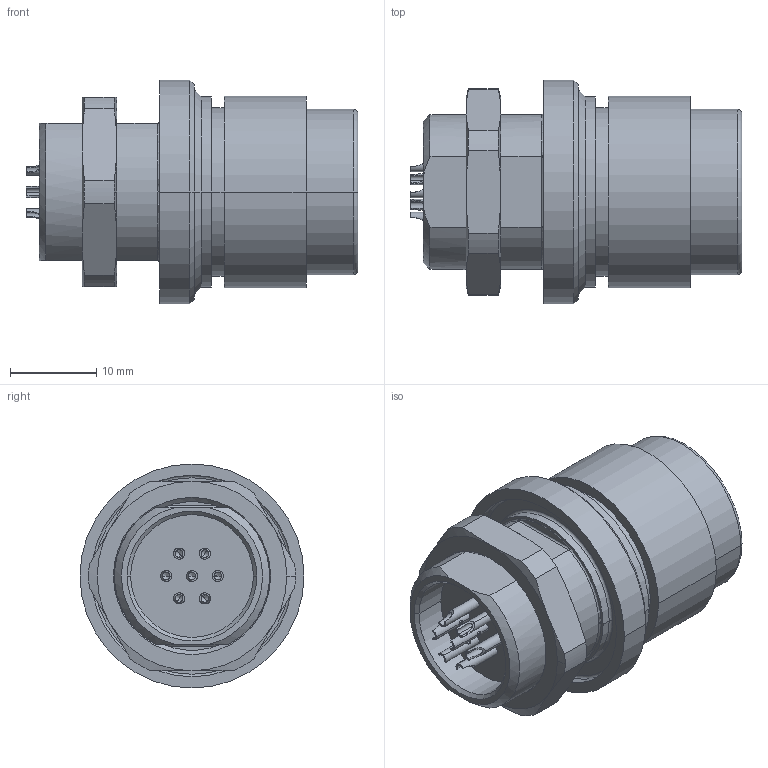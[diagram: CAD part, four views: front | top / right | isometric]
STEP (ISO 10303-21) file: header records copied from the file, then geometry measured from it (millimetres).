
FILE_DESCRIPTION((''),'2;1');
FILE_NAME('542E0030A9_SW0001','2017-04-10T',('Syakoubi'),('SOURIAU'),'PRO/ENGINEER BY PARAMETRIC TECHNOLOGY CORPORATION, 2014000','PRO/ENGINEER BY PARAMETRIC TECHNOLOGY CORPORATION, 2014000','');
FILE_SCHEMA(('CONFIG_CONTROL_DESIGN'));
Length unit declared in the file: millimetre
Products named in the file (1): 542E0030A9_SW0001
Bounding box: 38.5 x 26 x 26 mm (x, y, z)
Volume: 9263.3 mm3; surface area: 5754.8 mm2
Topology: 1 solids, 1 shells, 229 faces, 572 edges, 347 vertices
Faces by surface type: cylinder 111, plane 50, cone 44, torus 24
Entity records: 9274 total; most frequent: CARTESIAN_POINT 2232, DIRECTION 1187, ORIENTED_EDGE 1116, EDGE_CURVE 558, AXIS2_PLACEMENT_3D 500, VERTEX_POINT 347, CIRCLE 271, EDGE_LOOP 263
